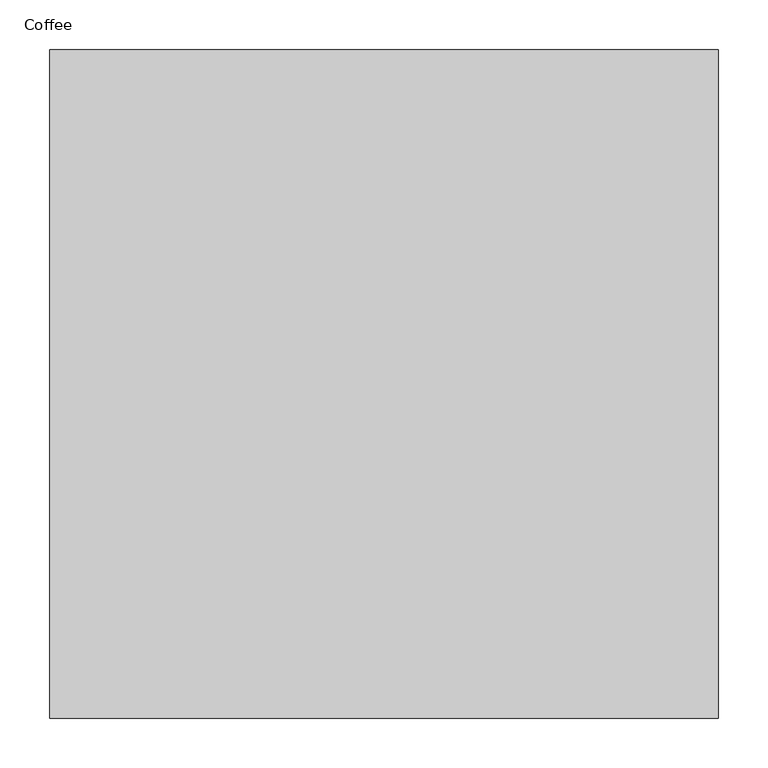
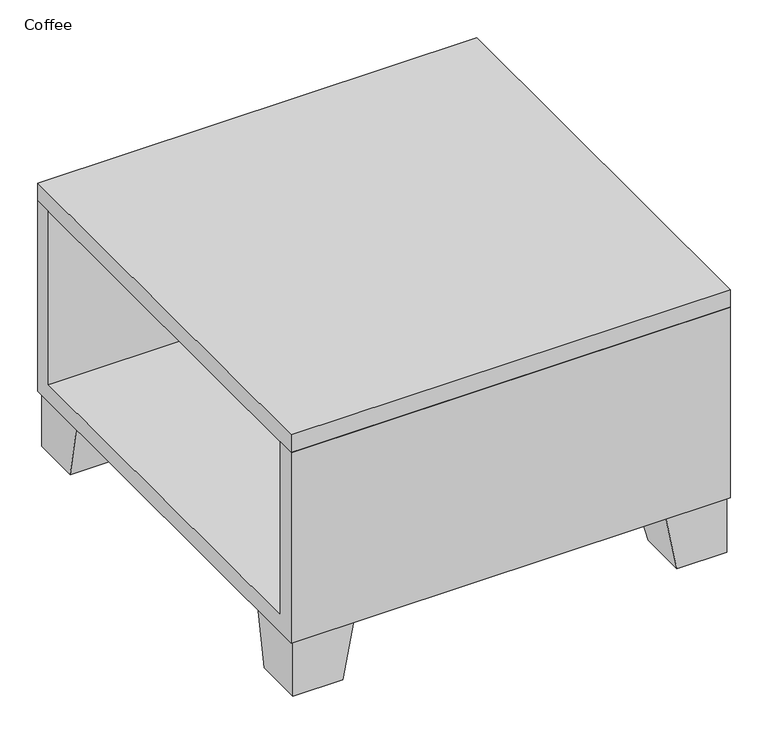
"""IFC4 building model written with IfcOpenShell, lengths in millimetres: furniture geometry, Steelcase Turnstone - Jenny - Table - Occasional : Coffee."""

from ifc_helpers import new_model, si_unit, point, frame, frame_2d, origin, origin_with_axes, place, context, project, spatial, polyline, circle_curve, trimmed, segment, composite_curve, outline, extrude, faceted_brep, source, transform, mapped, element, save


def coffee_0a8c5b1f(model_context):
    return source(origin(), model_context, "Body", "SolidModel", [
        extrude(outline(composite_curve([segment(trimmed(circle_curve(frame_2d((630.1468079, -631.7033989)), 14.5101608), [point((615.636647, -631.7033989))], [point((644.6569687, -631.7033989))], False, "CARTESIAN"), True, "CONTINUOUS"), segment(trimmed(circle_curve(frame_2d((630.1468079, -631.7033989)), 14.5101608), [point((644.6569687, -631.7033989))], [point((615.636647, -631.7033989))], False, "CARTESIAN"), True, "CONTINUOUS")], self_intersect=False)), origin_with_axes(), (0.0, 0.0, 1.0), 6.8716872),
        extrude(outline(composite_curve([segment(trimmed(circle_curve(frame_2d((42.2375381, -632.2530746)), 14.5104515), [point((27.7270866, -632.2530746))], [point((56.7479897, -632.2530746))], False, "CARTESIAN"), True, "CONTINUOUS"), segment(trimmed(circle_curve(frame_2d((42.2375381, -632.2530746)), 14.5104515), [point((56.7479897, -632.2530746))], [point((27.7270866, -632.2530746))], False, "CARTESIAN"), True, "CONTINUOUS")], self_intersect=False)), origin_with_axes(), (0.0, 0.0, 1.0), 6.8716872),
        extrude(outline(composite_curve([segment(trimmed(circle_curve(frame_2d((631.2729019, -40.9195953)), 14.2541068), [point((617.0187951, -40.9195953))], [point((645.5270087, -40.9195953))], False, "CARTESIAN"), True, "CONTINUOUS"), segment(trimmed(circle_curve(frame_2d((631.2729019, -40.9195953)), 14.2541068), [point((645.5270087, -40.9195953))], [point((617.0187951, -40.9195953))], False, "CARTESIAN"), True, "CONTINUOUS")], self_intersect=False)), origin_with_axes(), (0.0, 0.0, 1.0), 6.8716872),
        extrude(outline(composite_curve([segment(trimmed(circle_curve(frame_2d((43.3636322, -40.3696289)), 14.5104515), [point((28.8531807, -40.3696289))], [point((57.8740837, -40.3696289))], False, "CARTESIAN"), True, "CONTINUOUS"), segment(trimmed(circle_curve(frame_2d((43.3636322, -40.3696289)), 14.5104515), [point((57.8740837, -40.3696289))], [point((28.8531807, -40.3696289))], False, "CARTESIAN"), True, "CONTINUOUS")], self_intersect=False)), origin_with_axes(), (0.0, 0.0, 1.0), 6.8716872),
        faceted_brep([(4.1375381, -594.1530746, 6.8716872), (80.3375381, -594.1530746, 6.8716872), (80.3375381, -670.3530746, 6.8716872), (4.1375381, -670.3530746, 6.8716872), (4.1375381, -576.9320328, 95.5443588), (4.1375381, -670.3530746, 95.5443588), (97.55858, -670.3530746, 95.5443588), (97.55858, -576.9320328, 95.5443588)], [[[0, 1, 2, 3]], [[4, 5, 6, 7]], [[4, 7, 1, 0]], [[7, 6, 2, 1]], [[6, 5, 3, 2]], [[5, 4, 0, 3]]]),
        faceted_brep([(4.1375381, -79.2117348, 6.8716872), (4.1375381, -3.0117348, 6.8716872), (80.3375381, -3.0117348, 6.8716872), (80.3375381, -79.2117348, 6.8716872), (4.1375381, -96.4327766, 95.5443588), (97.55858, -96.4327766, 95.5443588), (97.55858, -3.0117348, 95.5443588), (4.1375381, -3.0117348, 95.5443588)], [[[0, 1, 2, 3]], [[4, 5, 6, 7]], [[4, 7, 1, 0]], [[7, 6, 2, 1]], [[6, 5, 3, 2]], [[5, 4, 0, 3]]]),
        faceted_brep([(668.9624619, -594.1530746, 6.8716872), (668.9624619, -670.3530746, 6.8716872), (592.7624619, -670.3530746, 6.8716872), (592.7624619, -594.1530746, 6.8716872), (668.9624619, -576.9320328, 95.5443588), (575.54142, -576.9320328, 95.5443588), (575.54142, -670.3530746, 95.5443588), (668.9624619, -670.3530746, 95.5443588)], [[[0, 1, 2, 3]], [[4, 5, 6, 7]], [[4, 7, 1, 0]], [[7, 6, 2, 1]], [[6, 5, 3, 2]], [[5, 4, 0, 3]]]),
        faceted_brep([(668.9624619, -79.2117348, 6.8716872), (592.7624619, -79.2117348, 6.8716872), (592.7624619, -3.0117348, 6.8716872), (668.9624619, -3.0117348, 6.8716872), (668.9624619, -96.4327766, 95.5443588), (668.9624619, -3.0117348, 95.5443588), (575.54142, -3.0117348, 95.5443588), (575.54142, -96.4327766, 95.5443588)], [[[0, 1, 2, 3]], [[4, 5, 6, 7]], [[4, 7, 1, 0]], [[7, 6, 2, 1]], [[6, 5, 3, 2]], [[5, 4, 0, 3]]]),
        extrude(outline(polyline([(0.0, 95.758), (-673.1, 95.758), (-673.1, 404.5799475), (-644.5250727, 404.5799475), (-644.5250727, 124.0788367), (-28.575, 124.0788367), (-28.575, 404.5799475), (0.0, 404.5799475), (0.0, 95.758)])), frame((0.0, 0.0, 0.0), z_axis=(1.0, 0.0, 0.0), x_axis=(0.0, 1.0, 0.0)), (0.0, 0.0, 1.0), 673.1),
        extrude(outline(polyline([(673.1, 0.0), (673.1, -673.1), (0.0, -673.1), (0.0, 0.0), (673.1, 0.0)])), frame((0.0, 0.0, 404.5799475), z_axis=(0.0, 0.0, 1.0), x_axis=(1.0, 0.0, 0.0)), (0.0, 0.0, 1.0), 28.575),
    ])


if __name__ == "__main__":
    model = new_model("IFC4")
    model_context = context("Model", 3, world=origin())
    ifc_project = project(units=[si_unit("LENGTHUNIT", "METRE", prefix="MILLI")], contexts=[model_context])
    site = spatial("IfcSite", under=ifc_project)
    building = spatial("IfcBuilding", under=site)
    placement = place(None, origin())
    coffee_shape = coffee_0a8c5b1f(model_context)
    element("IfcFurniture", 1, ObjectType="Steelcase Turnstone - Jenny - Table - Occasional : Coffee", at=placement, inside=building, context=model_context, shape_type="MappedRepresentation", body=[
        mapped(coffee_shape, transform((0.0, 0.0, 0.0), x_axis=(1.0, 0.0, 0.0), y_axis=(0.0, 1.0, 0.0), z_axis=(0.0, 0.0, 1.0))),
    ])
    save(model, "model.ifc")
